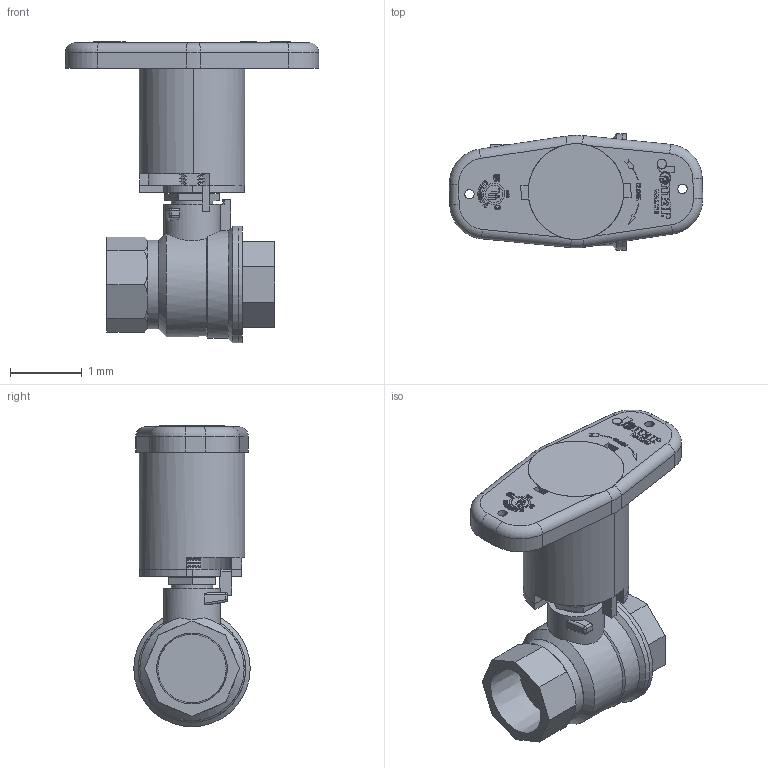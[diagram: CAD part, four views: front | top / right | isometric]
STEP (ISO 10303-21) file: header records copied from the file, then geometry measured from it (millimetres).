
FILE_DESCRIPTION(('Open CASCADE Model'),'2;1');
FILE_NAME('Open CASCADE Shape Model','2021-10-12T08:12:08',('Author'),( 'Open CASCADE'),'Open CASCADE STEP processor 7.3','Open CASCADE 7.3' ,'Unknown');
FILE_SCHEMA(('AUTOMOTIVE_DESIGN { 1 0 10303 214 1 1 1 1 }'));
Length unit declared in the file: millimetre
Products named in the file (156): Open CASCADE STEP translator 7.3 1; Open CASCADE STEP translator 7.3 1.1; Open CASCADE STEP translator 7.3 1.2; Open CASCADE STEP translator 7.3 1.3; Open CASCADE STEP translator 7.3 1.4; Open CASCADE STEP translator 7.3 1.4.1; Open CASCADE STEP translator 7.3 1.4.2; Open CASCADE STEP translator 7.3 1.4.3; Open CASCADE STEP translator 7.3 1.4.4; Open CASCADE STEP translator 7.3 1.4.5; Open CASCADE STEP translator 7.3 1.4.6; Open CASCADE STEP translator 7.3 1.4.7; Open CASCADE STEP translator 7.3 1.4.8; Open CASCADE STEP translator 7.3 1.4.9; Open CASCADE STEP translator 7.3 1.4.10; Open CASCADE STEP translator 7.3 1.4.11; Open CASCADE STEP translator 7.3 1.4.12; Open CASCADE STEP translator 7.3 1.4.13; Open CASCADE STEP translator 7.3 1.4.14; Open CASCADE STEP translator 7.3 1.4.15; Open CASCADE STEP translator 7.3 1.4.16; Open CASCADE STEP translator 7.3 1.4.17; Open CASCADE STEP translator 7.3 1.4.18; Open CASCADE STEP translator 7.3 1.4.19; Open CASCADE STEP translator 7.3 1.4.20; Open CASCADE STEP translator 7.3 1.4.21; Open CASCADE STEP translator 7.3 1.4.22; Open CASCADE STEP translator 7.3 1.4.23; Open CASCADE STEP translator 7.3 1.4.24; Open CASCADE STEP translator 7.3 1.4.25; Open CASCADE STEP translator 7.3 1.4.26; Open CASCADE STEP translator 7.3 1.4.27; Open CASCADE STEP translator 7.3 1.4.28; Open CASCADE STEP translator 7.3 1.4.29; Open CASCADE STEP translator 7.3 1.4.30; Open CASCADE STEP translator 7.3 1.4.31; Open CASCADE STEP translator 7.3 1.4.32; Open CASCADE STEP translator 7.3 1.4.33; Open CASCADE STEP translator 7.3 1.4.34; Open CASCADE STEP translator 7.3 1.4.35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
Assembly tree (155 placements, depth 3):
  Open CASCADE STEP translator 7.3 1
    Open CASCADE STEP translator 7.3 1.1
    Open CASCADE STEP translator 7.3 1.2
    Open CASCADE STEP translator 7.3 1.3
    Open CASCADE STEP translator 7.3 1.4
      Open CASCADE STEP translator 7.3 1.4.1
      Open CASCADE STEP translator 7.3 1.4.2
      Open CASCADE STEP translator 7.3 1.4.3
      Open CASCADE STEP translator 7.3 1.4.4
      Open CASCADE STEP translator 7.3 1.4.5
      Open CASCADE STEP translator 7.3 1.4.6
      Open CASCADE STEP translator 7.3 1.4.7
      Open CASCADE STEP translator 7.3 1.4.8
      Open CASCADE STEP translator 7.3 1.4.9
      Open CASCADE STEP translator 7.3 1.4.10
      Open CASCADE STEP translator 7.3 1.4.11
      Open CASCADE STEP translator 7.3 1.4.12
      Open CASCADE STEP translator 7.3 1.4.13
      Open CASCADE STEP translator 7.3 1.4.14
      Open CASCADE STEP translator 7.3 1.4.15
      Open CASCADE STEP translator 7.3 1.4.16
      Open CASCADE STEP translator 7.3 1.4.17
      Open CASCADE STEP translator 7.3 1.4.18
      Open CASCADE STEP translator 7.3 1.4.19
      Open CASCADE STEP translator 7.3 1.4.20
      Open CASCADE STEP translator 7.3 1.4.21
      Open CASCADE STEP translator 7.3 1.4.22
      Open CASCADE STEP translator 7.3 1.4.23
      Open CASCADE STEP translator 7.3 1.4.24
      Open CASCADE STEP translator 7.3 1.4.25
      Open CASCADE STEP translator 7.3 1.4.26
      Open CASCADE STEP translator 7.3 1.4.27
      Open CASCADE STEP translator 7.3 1.4.28
      Open CASCADE STEP translator 7.3 1.4.29
      Open CASCADE STEP translator 7.3 1.4.30
      Open CASCADE STEP translator 7.3 1.4.31
      Open CASCADE STEP translator 7.3 1.4.32
      Open CASCADE STEP translator 7.3 1.4.33
      Open CASCADE STEP translator 7.3 1.4.34
      Open CASCADE STEP translator 7.3 1.4.35
      Open CASCADE STEP translator 7.3 1.4.36
      Open CASCADE STEP translator 7.3 1.4.37
      Open CASCADE STEP translator 7.3 1.4.38
      Open CASCADE STEP translator 7.3 1.4.39
      Open CASCADE STEP translator 7.3 1.4.40
      Open CASCADE STEP translator 7.3 1.4.41
      Open CASCADE STEP translator 7.3 1.4.42
      Open CASCADE STEP translator 7.3 1.4.43
    Open CASCADE STEP translator 7.3 1.5
    Open CASCADE STEP translator 7.3 1.6
    Open CASCADE STEP translator 7.3 1.7
    Open CASCADE STEP translator 7.3 1.8
    Open CASCADE STEP translator 7.3 1.9
    Open CASCADE STEP translator 7.3 1.10
    Open CASCADE STEP translator 7.3 1.11
    Open CASCADE STEP translator 7.3 1.12
    Open CASCADE STEP translator 7.3 1.13
    Open CASCADE STEP translator 7.3 1.14
    Open CASCADE STEP translator 7.3 1.15
    Open CASCADE STEP translator 7.3 1.16
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Bounding box: 3.54 x 1.62 x 4.21 mm (x, y, z)
Volume: 2 mm3; surface area: 59.2 mm2
Topology: 45 solids, 154 shells, 2712 faces, 8016 edges, 5499 vertices
Faces by surface type: plane 2545, cylinder 117, cone 36, torus 6, extrusion 6, sphere 2
Full cylindrical faces by diameter (mm): 0.015 x1, 0.018 x1, 0.047 x1, 0.065 x1, 0.13 x1, 0.131 x2, 0.385 x1, 0.578 x1, 1.164 x1, 1.213 x2, 1.24 x1, 1.294 x1, 1.339 x1, 1.625 x2
Entity records: 196296 total; most frequent: CARTESIAN_POINT 36312, DIRECTION 29186, VECTOR 22569, LINE 22563, ORIENTED_EDGE 15529, PCURVE 15529, DEFINITIONAL_REPRESENTATION 15529, EDGE_CURVE 8015
